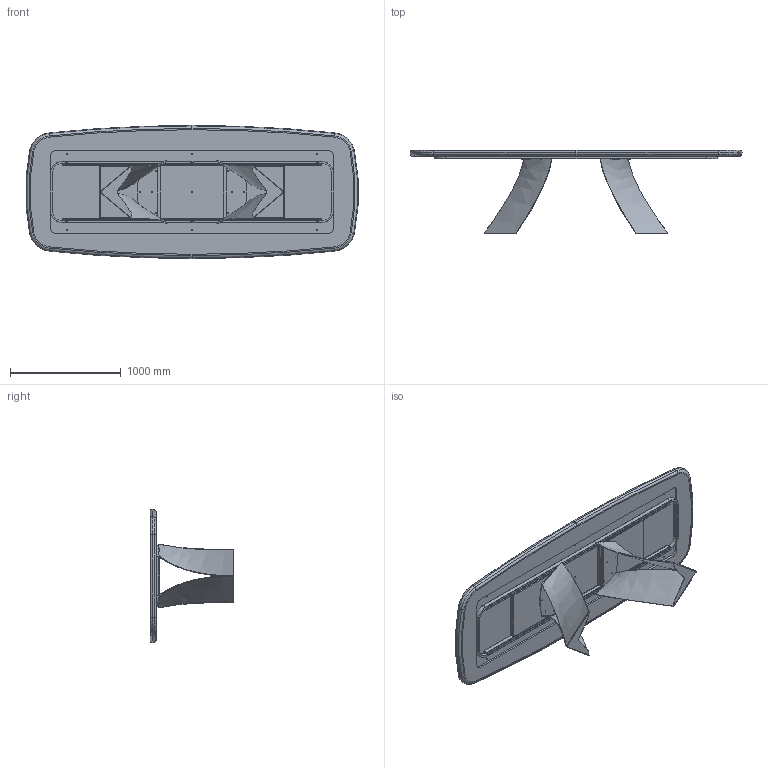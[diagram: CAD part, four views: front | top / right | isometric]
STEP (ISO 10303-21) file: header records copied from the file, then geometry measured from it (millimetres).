
FILE_DESCRIPTION (( 'STEP AP203' ), '1' );
FILE_NAME ('TW44K_Twist_300X120_King Shaped.STEP', '2024-08-02T09:49:23', ( '' ), ( '' ), 'SwSTEP 2.0', 'SolidWorks 2022', '' );
FILE_SCHEMA (( 'CONFIG_CONTROL_DESIGN' ));
Length unit declared in the file: millimetre
Products named in the file (8): TWS000000BAS-00-TWIST BASE GREZZA; TTAX03_02-00-VASSOIO IRRIGIDIMENTO TELAIO TWIST 300; TTAX03_01-00-TELAIO UNIVERSALE X TWIST 300 320cm_Default<A macchina>; TW44K_Twist_300X120_King Shaped; ASSIEME PIANO+CERAMICA 300X120; K51-00-PIANO SOLO CERAMICA 297x116.7cm sag; TTAV10-00-TELAIO X TAVOLO TWIST 300 320cm; W51-01-PIANO KING BORDO 300X120 SAGOMATO LACCATO
Assembly tree (9 placements, depth 3):
  TW44K_Twist_300X120_King Shaped
    TWS000000BAS-00-TWIST BASE GREZZA  x2
    TTAV10-00-TELAIO X TAVOLO TWIST 300 320cm
      TTAX03_01-00-TELAIO UNIVERSALE X TWIST 300 320cm_Default<A macchina>
      TTAX03_02-00-VASSOIO IRRIGIDIMENTO TELAIO TWIST 300  x2
    ASSIEME PIANO+CERAMICA 300X120
      W51-01-PIANO KING BORDO 300X120 SAGOMATO LACCATO
      K51-00-PIANO SOLO CERAMICA 297x116.7cm sag
Bounding box: 2991.72 x 751.37 x 1200 mm (x, y, z)
Volume: 159271250 mm3; surface area: 19710528.6 mm2
Topology: 24 solids, 24 shells, 683 faces, 1744 edges, 1093 vertices
Faces by surface type: plane 266, cylinder 235, torus 82, bspline 66, cone 34
Entity records: 23447 total; most frequent: CARTESIAN_POINT 9135, DIRECTION 2924, ORIENTED_EDGE 2718, EDGE_CURVE 1359, AXIS2_PLACEMENT_3D 1126, VERTEX_POINT 870, LINE 672, VECTOR 672
